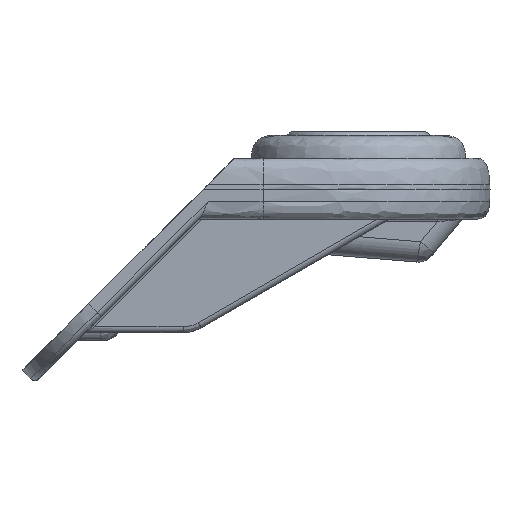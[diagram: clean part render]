
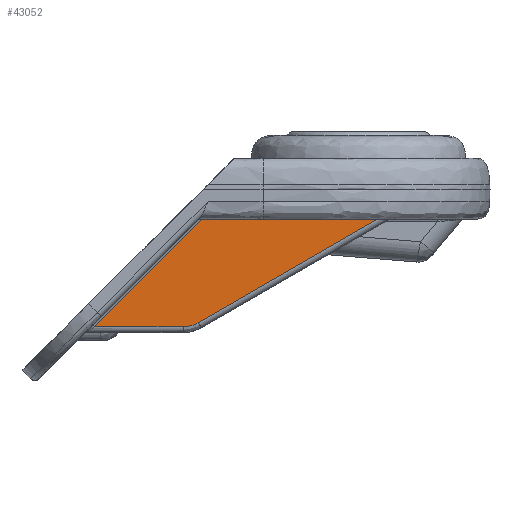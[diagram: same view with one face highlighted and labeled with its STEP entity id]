
A CAD part, left-side view. The second image highlights one B-rep face of the part: STEP entity #43052.
In plain terms, the highlighted planar face has unit normal (-1, 0, -0.018).
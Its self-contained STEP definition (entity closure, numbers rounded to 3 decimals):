
#19061=DIRECTION('',(0.,-1.,0.));
#19062=VECTOR('',#19061,7.426);
#19063=CARTESIAN_POINT('',(-54.459,22.108,
-14.009));
#19064=LINE('',#19063,#19062);
#19068=CARTESIAN_POINT('',(-54.459,14.683,
-14.009));
#19069=CARTESIAN_POINT('',(-54.459,14.589,
-14.009));
#19070=CARTESIAN_POINT('',(-54.459,14.41,
-13.998));
#19071=CARTESIAN_POINT('',(-54.459,14.17,
-13.96));
#19072=CARTESIAN_POINT('',(-54.46,13.935,
-13.899));
#19073=CARTESIAN_POINT('',(-54.462,13.692,
-13.809));
#19074=CARTESIAN_POINT('',(-54.464,13.52,
-13.724));
#19075=CARTESIAN_POINT('',(-54.464,13.433,
-13.674));
#19080=DIRECTION('',(0.012,0.707,-0.707));
#19081=VECTOR('',#19080,17.289);
#19082=CARTESIAN_POINT('',(-54.672,9.884,
-1.784));
#19083=LINE('',#19082,#19081);
#19087=CARTESIAN_POINT('',(-54.673,9.672,
-1.697));
#19088=CARTESIAN_POINT('',(-54.673,9.682,
-1.697));
#19089=CARTESIAN_POINT('',(-54.673,9.701,
-1.698));
#19090=CARTESIAN_POINT('',(-54.673,9.731,
-1.702));
#19091=CARTESIAN_POINT('',(-54.673,9.762,
-1.71));
#19092=CARTESIAN_POINT('',(-54.673,9.792,
-1.721));
#19093=CARTESIAN_POINT('',(-54.673,9.823,
-1.737));
#19094=CARTESIAN_POINT('',(-54.672,9.853,
-1.757));
#19095=CARTESIAN_POINT('',(-54.672,9.874,
-1.774));
#19096=CARTESIAN_POINT('',(-54.672,9.884,
-1.784));
#19101=DIRECTION('',(0.,1.,0.));
#19102=VECTOR('',#19101,2.182);
#19103=CARTESIAN_POINT('',(-54.673,7.49,
-1.697));
#19104=LINE('',#19103,#19102);
#19108=CARTESIAN_POINT('',(-54.658,7.483,
-2.607));
#19109=CARTESIAN_POINT('',(-54.663,7.485,
-2.303));
#19110=CARTESIAN_POINT('',(-54.668,7.487,
-2.));
#19111=CARTESIAN_POINT('',(-54.673,7.49,
-1.697));
#19116=CARTESIAN_POINT('',(-54.647,6.608,
-3.197));
#19117=CARTESIAN_POINT('',(-54.647,6.65,
-3.197));
#19118=CARTESIAN_POINT('',(-54.647,6.731,
-3.193));
#19119=CARTESIAN_POINT('',(-54.648,6.84,
-3.178));
#19120=CARTESIAN_POINT('',(-54.648,6.938,
-3.156));
#19121=CARTESIAN_POINT('',(-54.648,7.027,
-3.129));
#19122=CARTESIAN_POINT('',(-54.649,7.106,
-3.097));
#19123=CARTESIAN_POINT('',(-54.65,7.176,
-3.061));
#19124=CARTESIAN_POINT('',(-54.65,7.237,
-3.022));
#19125=CARTESIAN_POINT('',(-54.651,7.289,
-2.982));
#19126=CARTESIAN_POINT('',(-54.652,7.335,
-2.941));
#19127=CARTESIAN_POINT('',(-54.653,7.375,
-2.896));
#19128=CARTESIAN_POINT('',(-54.653,7.41,
-2.848));
#19129=CARTESIAN_POINT('',(-54.654,7.439,
-2.796));
#19130=CARTESIAN_POINT('',(-54.655,7.462,
-2.741));
#19131=CARTESIAN_POINT('',(-54.656,7.478,
-2.68));
#19132=CARTESIAN_POINT('',(-54.657,7.483,
-2.632));
#19133=CARTESIAN_POINT('',(-54.658,7.483,
-2.607));
#19138=DIRECTION('',(0.,1.,0.));
#19139=VECTOR('',#19138,11.323);
#19140=CARTESIAN_POINT('',(-54.647,-4.715,
-3.197));
#19141=LINE('',#19140,#19139);
#19156=CARTESIAN_POINT('',(-54.647,-4.715,
-3.197));
#19176=DIRECTION('',(-0.009,-0.866,0.5));
#19177=VECTOR('',#19176,20.955);
#19178=CARTESIAN_POINT('',(-54.464,13.433,
-13.674));
#19179=LINE('',#19178,#19177);
#23999=VERTEX_POINT('',#19068);
#24000=VERTEX_POINT('',#19075);
#24022=VERTEX_POINT('',#19156);
#24027=CARTESIAN_POINT('',(-54.672,9.884,
-1.784));
#24028=CARTESIAN_POINT('',(-54.459,22.108,
-14.009));
#24029=VERTEX_POINT('',#24027);
#24030=VERTEX_POINT('',#24028);
#24045=CARTESIAN_POINT('',(-54.647,6.608,
-3.197));
#24046=VERTEX_POINT('',#24045);
#24253=VERTEX_POINT('',#19133);
#24256=VERTEX_POINT('',#19111);
#24261=CARTESIAN_POINT('',(-54.673,9.672,
-1.697));
#24262=VERTEX_POINT('',#24261);
#43033=CARTESIAN_POINT('',(-54.45,-3.776,-14.5));
#43034=DIRECTION('',(1.,0.,0.017));
#43035=DIRECTION('',(0.,-1.,0.));
#43036=AXIS2_PLACEMENT_3D('',#43033,#43034,#43035);
#43037=PLANE('',#43036);
#43039=ORIENTED_EDGE('',*,*,#43038,.F.);
#43041=ORIENTED_EDGE('',*,*,#43040,.F.);
#43042=ORIENTED_EDGE('',*,*,#43024,.F.);
#43043=ORIENTED_EDGE('',*,*,#40063,.F.);
#43044=ORIENTED_EDGE('',*,*,#40124,.F.);
#43046=ORIENTED_EDGE('',*,*,#43045,.F.);
#43047=ORIENTED_EDGE('',*,*,#42262,.F.);
#43048=ORIENTED_EDGE('',*,*,#42353,.F.);
#43049=ORIENTED_EDGE('',*,*,#42367,.F.);
#43050=EDGE_LOOP('',(#43039,#43041,#43042,#43043,#43044,#43046,#43047,#43048,
#43049));
#43051=FACE_OUTER_BOUND('',#43050,.F.);
#19076=B_SPLINE_CURVE_WITH_KNOTS('',3,(#19068,#19069,#19070,#19071,#19072,
#19073,#19074,#19075),.UNSPECIFIED.,.F.,.F.,(4,1,1,1,1,4),(0.,0.2,0.4,
0.6,0.8,1.),.UNSPECIFIED.);
#19097=B_SPLINE_CURVE_WITH_KNOTS('',3,(#19087,#19088,#19089,#19090,#19091,
#19092,#19093,#19094,#19095,#19096),.UNSPECIFIED.,.F.,.F.,(4,1,1,1,1,1,1,4),(
0.,0.143,0.286,0.429,0.571,
0.714,0.857,1.),.UNSPECIFIED.);
#19112=B_SPLINE_CURVE_WITH_KNOTS('',3,(#19108,#19109,#19110,#19111),
.UNSPECIFIED.,.F.,.F.,(4,4),(0.,1.),.UNSPECIFIED.);
#19134=B_SPLINE_CURVE_WITH_KNOTS('',3,(#19116,#19117,#19118,#19119,#19120,
#19121,#19122,#19123,#19124,#19125,#19126,#19127,#19128,#19129,#19130,#19131,
#19132,#19133),.UNSPECIFIED.,.F.,.F.,(4,1,1,1,1,1,1,1,1,1,1,1,1,1,1,4),(0.,
0.067,0.133,0.2,0.267,0.333,
0.4,0.467,0.533,0.6,0.667,
0.733,0.8,0.867,0.933,1.),
.UNSPECIFIED.);
#40063=EDGE_CURVE('',#24029,#24030,#19083,.T.);
#40124=EDGE_CURVE('',#24262,#24029,#19097,.T.);
#42262=EDGE_CURVE('',#24253,#24256,#19112,.T.);
#42353=EDGE_CURVE('',#24046,#24253,#19134,.T.);
#42367=EDGE_CURVE('',#24022,#24046,#19141,.T.);
#43024=EDGE_CURVE('',#24030,#23999,#19064,.T.);
#43038=EDGE_CURVE('',#24000,#24022,#19179,.T.);
#43040=EDGE_CURVE('',#23999,#24000,#19076,.T.);
#43045=EDGE_CURVE('',#24256,#24262,#19104,.T.);
#43052=ADVANCED_FACE('',(#43051),#43037,.F.);
